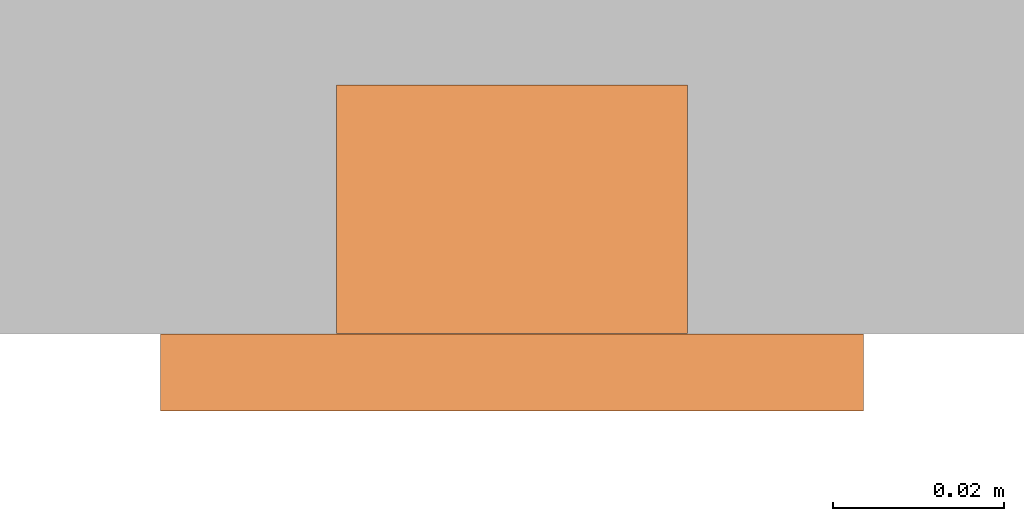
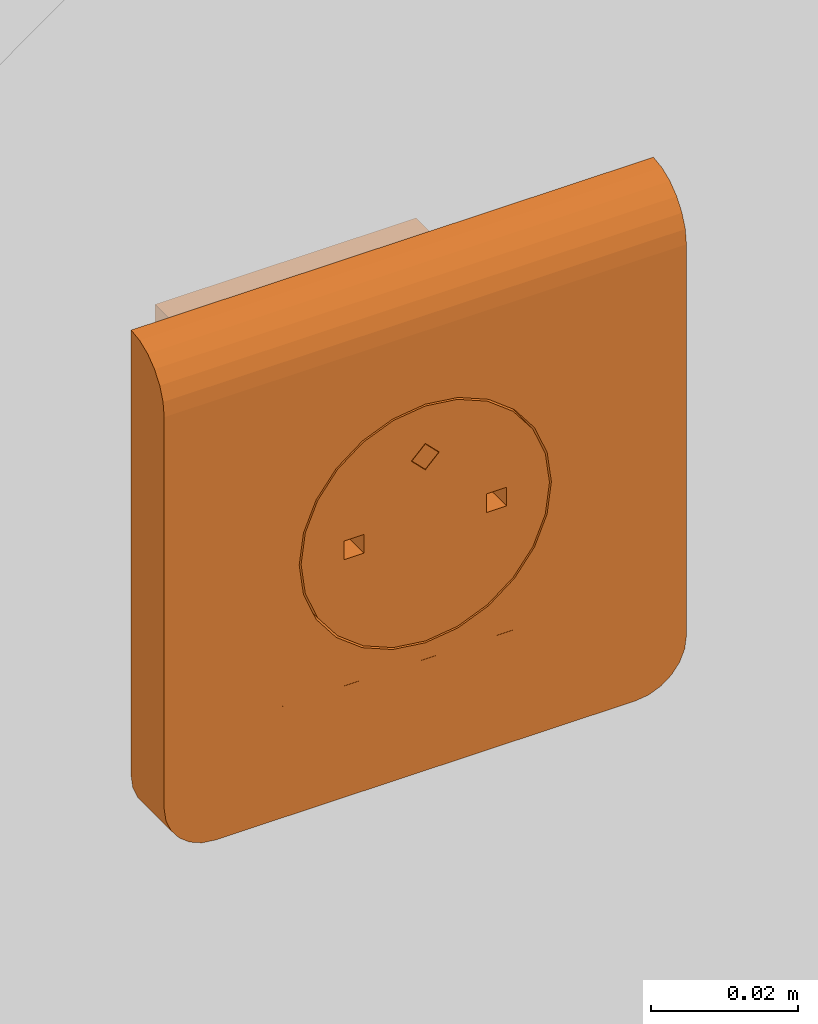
# One storey, part 107 of 197: 1 proxy.
"""IFC2X3 building model written with IfcOpenShell, lengths in metres."""

import ifcopenshell
import ifcopenshell.guid

model = None  # the IFC model being written
_history = None  # IfcOwnerHistory: only IFC2X3 demands one
_inside = {}  # id of a spatial element -> (the spatial element, [elements in it])
_under = {}  # id of a project, library or spatial element -> (it, [spatial elements below it])
_declared = {}  # id of a project -> (the project, [libraries it declares])
_typed = {}  # id of a type object -> (the type object, [elements of that type])
_made_of = {}  # id of a material, layer set ... -> (it, [elements and type objects made of it])


def new_model(schema):
    """Start an empty IFC model of exactly this schema.

    Asked for "IFC4X3", IfcOpenShell would pick the latest addendum, in which some entities
    have other attributes; the version numbers below select the first issue.
    IFC2X3 requires an IfcOwnerHistory on every rooted entity: one is made here for all.
    """
    global model, _history
    if schema == "IFC4X3":
        model = ifcopenshell.file(schema_version=(4, 3, 0, 0))
    else:
        model = ifcopenshell.file(schema=schema)
    _inside.clear()
    _under.clear()
    _declared.clear()
    _typed.clear()
    _made_of.clear()
    _history = None
    if model.schema == "IFC2X3":
        org = make("IfcOrganization", Name="unknown")
        user = make(
            "IfcPersonAndOrganization",
            ThePerson=make("IfcPerson", FamilyName="unknown"),
            TheOrganization=org,
        )
        app = make(
            "IfcApplication",
            ApplicationDeveloper=org,
            Version="unknown",
            ApplicationFullName="unknown",
            ApplicationIdentifier="unknown",
        )
        _history = make(
            "IfcOwnerHistory",
            OwningUser=user,
            OwningApplication=app,
            ChangeAction="ADDED",
            CreationDate=0,
        )
    return model


def make(cls, **values):
    """One entity of the class cls with the attributes given. An attribute that is None is left unset."""
    return model.create_entity(
        cls, **{name: value for name, value in values.items() if value is not None}
    )


def entity(cls, *values):
    """Any entity or typed value of the class cls, its attributes in the order of the schema. None: left unset."""
    e = model.create_entity(cls)
    for i, value in enumerate(values):
        if value is not None:
            e[i] = value
    return e


def rooted(cls, **values):
    """An entity with a GlobalId (a new one), such as an element, a storey or a relation."""
    return make(cls, GlobalId=ifcopenshell.guid.new(), OwnerHistory=_history, **values)


def si_unit(unit_type, name, prefix=None):
    """IfcSIUnit, for example si_unit("LENGTHUNIT", "METRE", prefix="MILLI")."""
    return make("IfcSIUnit", UnitType=unit_type, Prefix=prefix, Name=name)


def converted_unit(unit_type, name, factor, base, dimensions=None, offset=None):
    """IfcConversionBasedUnit, such as the inch: factor (a typed value) times the base unit."""
    return make(
        "IfcConversionBasedUnit"
        if offset is None
        else "IfcConversionBasedUnitWithOffset",
        ConversionOffset=offset,
        Dimensions=None
        if dimensions is None
        else entity("IfcDimensionalExponents", *dimensions),
        UnitType=unit_type,
        Name=name,
        ConversionFactor=make(
            "IfcMeasureWithUnit", ValueComponent=factor, UnitComponent=base
        ),
    )


def assignment(units):
    """IfcUnitAssignment: the units of a project."""
    return None if units is None else make("IfcUnitAssignment", Units=units)


def point(xyz):
    """IfcCartesianPoint."""
    return None if xyz is None else make("IfcCartesianPoint", Coordinates=xyz)


def direction(xyz):
    """IfcDirection."""
    return None if xyz is None else make("IfcDirection", DirectionRatios=xyz)


def frame(location, z_axis=None, x_axis=None):
    """IfcAxis2Placement3D, a coordinate frame: its origin and axes. An axis left out is left unset."""
    return make(
        "IfcAxis2Placement3D",
        Location=point(location),
        Axis=direction(z_axis),
        RefDirection=direction(x_axis),
    )


def origin():
    """The frame at (0, 0, 0) with its axes left unset."""
    return frame((0.0, 0.0, 0.0))


def place(relative_to, where):
    """IfcLocalPlacement: puts the frame where relative to a parent placement (None: the world)."""
    return make(
        "IfcLocalPlacement", PlacementRelTo=relative_to, RelativePlacement=where
    )


def context(
    kind, dimensions, precision=None, world=None, true_north=None, identifier=None
):
    """IfcGeometricRepresentationContext, for example the 3D "Model" context."""
    return make(
        "IfcGeometricRepresentationContext",
        ContextIdentifier=identifier,
        ContextType=kind,
        CoordinateSpaceDimension=dimensions,
        Precision=precision,
        WorldCoordinateSystem=world,
        TrueNorth=true_north,
    )


def subcontext(parent, identifier, kind, view, scale=None):
    """IfcGeometricRepresentationSubContext, for example "Body" below "Model"."""
    return make(
        "IfcGeometricRepresentationSubContext",
        ContextIdentifier=identifier,
        ContextType=kind,
        ParentContext=parent,
        TargetScale=scale,
        TargetView=view,
    )


def project(units=None, contexts=None):
    """IfcProject with its units and contexts."""
    return rooted(
        "IfcProject",
        Name="project",
        RepresentationContexts=contexts,
        UnitsInContext=assignment(units),
    )


def spatial(cls, under=None, at=None, **own):
    """A site, building, storey or space (cls), placed at a placement, below another one or the project."""
    s = rooted(cls, ObjectPlacement=at, **own)
    if under is not None:
        _under.setdefault(under.id(), (under, []))[1].append(s)
    return s


def faces_of(points, faces, orient=None, outer=None):
    """IfcFace entities. A face is a list of loops; a loop is a list of indices into points, from 0.

    orient and outer hold one flag for each loop. By default every Orientation is true, the
    first loop of a face is its IfcFaceOuterBound and the others are IfcFaceBound.
    """
    made = []
    for i, loops in enumerate(faces):
        bounds = []
        for j, loop in enumerate(loops):
            is_outer = j == 0 if outer is None else outer[i][j]
            bounds.append(
                make(
                    "IfcFaceOuterBound" if is_outer else "IfcFaceBound",
                    Bound=make("IfcPolyLoop", Polygon=[points[k] for k in loop]),
                    Orientation=True if orient is None else orient[i][j],
                )
            )
        made.append(make("IfcFace", Bounds=bounds))
    return made


def faceted_brep(points, faces, orient=None, outer=None, voids=None):
    """IfcFacetedBrep: a solid bounded by flat faces; with voids (closed shells), ...WithVoids."""
    shared = [point(p) for p in points]
    hull = make("IfcClosedShell", CfsFaces=faces_of(shared, faces, orient, outer))
    if voids is None:
        return make("IfcFacetedBrep", Outer=hull)
    return make(
        "IfcFacetedBrepWithVoids",
        Outer=hull,
        Voids=[
            make(cls, CfsFaces=faces_of(shared, fs, o, b)) for cls, fs, o, b in voids
        ],
    )


def shape(context_of_items, identifier, shape_type, items):
    """IfcShapeRepresentation: the items that make up one representation, for example the "Body"."""
    return make(
        "IfcShapeRepresentation",
        ContextOfItems=context_of_items,
        RepresentationIdentifier=identifier,
        RepresentationType=shape_type,
        Items=items,
    )


def source(mapping_origin, context_of_items, identifier, shape_type, items):
    """IfcRepresentationMap: a shape defined once, which mapped items show again and again."""
    return make(
        "IfcRepresentationMap",
        MappingOrigin=mapping_origin,
        MappedRepresentation=shape(context_of_items, identifier, shape_type, items),
    )


def transform(
    local_origin,
    x_axis=None,
    y_axis=None,
    z_axis=None,
    scale=None,
    scale2=None,
    scale3=None,
    uniform=True,
):
    """IfcCartesianTransformationOperator3D, or its non-uniform kind. x_axis, y_axis, z_axis: its Axis1, 2, 3."""
    if uniform:
        return make(
            "IfcCartesianTransformationOperator3D",
            Axis1=direction(x_axis),
            Axis2=direction(y_axis),
            LocalOrigin=point(local_origin),
            Scale=scale,
            Axis3=direction(z_axis),
        )
    return make(
        "IfcCartesianTransformationOperator3DnonUniform",
        Axis1=direction(x_axis),
        Axis2=direction(y_axis),
        LocalOrigin=point(local_origin),
        Scale=scale,
        Axis3=direction(z_axis),
        Scale2=scale2,
        Scale3=scale3,
    )


def mapped(mapping_source, mapping_target):
    """IfcMappedItem: shows the shape of a source again, moved by a transform."""
    return make(
        "IfcMappedItem", MappingSource=mapping_source, MappingTarget=mapping_target
    )


def material(Name=None, Category=None):
    """IfcMaterial."""
    return make("IfcMaterial", Name=Name, Category=Category)


def material_list(materials):
    """IfcMaterialList."""
    return make("IfcMaterialList", Materials=materials)


def made_of(thing, what):
    """Note that an element or type object is made of a material, layer set ...; save() writes the relation."""
    if what is not None:
        _made_of.setdefault(what.id(), (what, []))[1].append(thing)
    return thing


def type_object(cls, material=None, **own):
    """A type object (cls), such as IfcWallType, which elements share."""
    return made_of(rooted(cls, **own), material)


def type_shapes(of_type, sources):
    """Give a type object the sources (RepresentationMaps) that its elements show as mapped items."""
    of_type.RepresentationMaps = sources


def element(
    cls,
    number,
    at=None,
    inside=None,
    cuts=None,
    type_object=None,
    material=None,
    context=None,
    identifier="Body",
    shape_type=None,
    held_by="IfcProductDefinitionShape",
    body=None,
    shapes=None,
    **own,
):
    """One element of the class cls, such as IfcWall. Its Tag is "e" and its number.

    at: its placement. inside: the storey or other place that contains it. cuts: it is an
    opening in that element (IfcRelVoidsElement). A single representation is given by context,
    identifier, shape_type and body (its items); several are given by shapes. held_by: the class
    of the entity that holds the representations. save() writes the other relations.
    """
    e = rooted(cls, Tag="e%d" % number, ObjectPlacement=at, **own)
    if body is not None:
        shapes = [shape(context, identifier, shape_type, body)]
    if shapes is not None:
        e.Representation = make(held_by, Representations=shapes)
    if inside is not None:
        _inside.setdefault(inside.id(), (inside, []))[1].append(e)
    if cuts is not None:
        rooted(
            "IfcRelVoidsElement", RelatingBuildingElement=cuts, RelatedOpeningElement=e
        )
    if type_object is not None:
        _typed.setdefault(type_object.id(), (type_object, []))[1].append(e)
    return made_of(e, material)


def aggregate(whole, parts):
    """IfcRelAggregates: a whole, such as a stair, and the parts it consists of."""
    return rooted("IfcRelAggregates", RelatingObject=whole, RelatedObjects=parts)


def save(model, path):
    """Write the relations noted so far, then the file.

    IfcRelAggregates (storeys below a building ...), IfcRelContainedInSpatialStructure (elements
    in a storey), IfcRelDefinesByType, IfcRelAssociatesMaterial and IfcRelDeclares: one each for
    every whole, place, type object, material and project.
    """
    for whole, parts in _under.values():
        aggregate(whole, parts)
    for where, things in _inside.values():
        rooted(
            "IfcRelContainedInSpatialStructure",
            RelatedElements=things,
            RelatingStructure=where,
        )
    for kind, things in _typed.values():
        rooted("IfcRelDefinesByType", RelatedObjects=things, RelatingType=kind)
    for what, things in _made_of.values():
        rooted("IfcRelAssociatesMaterial", RelatedObjects=things, RelatingMaterial=what)
    for by, libraries in _declared.values():
        rooted("IfcRelDeclares", RelatingContext=by, RelatedDefinitions=libraries)
    model.write(path)


model = new_model("IFC2X3")

# Units and contexts
model_context = context("Model", 3, precision=1e-05, world=origin(), true_north=direction((6.123031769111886e-17, 1.0)))
body_context = subcontext(model_context, "Body", "Model", "MODEL_VIEW")
ifc_project = project(units=[si_unit("LENGTHUNIT", "METRE"), converted_unit("PLANEANGLEUNIT", "DEGREE", entity("IfcPlaneAngleMeasure", 0.017453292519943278), si_unit("PLANEANGLEUNIT", "RADIAN"), dimensions=[0, 0, 0, 0, 0, 0, 0]), si_unit("AREAUNIT", "SQUARE_METRE")], contexts=[model_context])

# Site, building, storey
site_placement = place(None, origin())
site = spatial("IfcSite", under=ifc_project, at=site_placement, Name="Default", CompositionType="ELEMENT")
building_placement = place(site_placement, origin())
building = spatial("IfcBuilding", under=site, at=building_placement, CompositionType="ELEMENT")
storey_placement = place(building_placement, origin())
storey = spatial("IfcBuildingStorey", under=building, at=storey_placement, Name="Niveau 0", CompositionType="ELEMENT", Elevation=0.0)

# Proxy
ifc_material_1 = material(Name="BETCE-ENJOLIVEUR PC-BLANC")
ifc_material_2 = material(Name="<Unnamed>")
ifc_material_3 = material(Name="BETCE-PCO-ROUGE")
ifc_material_list = material_list([ifc_material_1, ifc_material_2, ifc_material_3])
building_element_proxy_type = type_object("IfcBuildingElementProxyType", Name="Prise simple encastré:PCO", PredefinedType="NOTDEFINED", material=ifc_material_list)
shared_shape = source(origin(), body_context, "Body", "Brep", [
    faceted_brep([(0.04099999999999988, -0.008999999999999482, -0.032999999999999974), (0.04099999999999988, -0.008999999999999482, 0.031999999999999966), (0.022499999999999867, -0.008999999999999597, -0.022500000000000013), (0.032999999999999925, -0.008999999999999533, -0.04099999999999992), (0.03507055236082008, -0.008999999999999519, -0.04072740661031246), (0.040727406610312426, -0.008999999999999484, -0.03507055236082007), (0.022499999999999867, -0.008999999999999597, 0.022499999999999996), (-0.02250000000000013, -0.008999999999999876, 0.022499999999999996), (-0.04100000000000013, -0.008999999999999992, 0.031999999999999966), (-0.02250000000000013, -0.008999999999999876, -0.022500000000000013), (-0.04100000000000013, -0.008999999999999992, -0.03299999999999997), (-0.033000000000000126, -0.008999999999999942, -0.04099999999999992), (-0.035070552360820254, -0.008999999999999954, -0.040727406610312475), (-0.040727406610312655, -0.008999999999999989, -0.03507055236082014), (-0.03700000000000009, -0.008999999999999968, -0.039928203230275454), (-0.03992820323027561, -0.008999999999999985, -0.036999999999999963), (-0.03865685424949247, -0.008999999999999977, -0.03865685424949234), (0.036999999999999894, -0.008999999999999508, -0.03992820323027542), (0.03992820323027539, -0.00899999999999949, -0.036999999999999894), (0.038656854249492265, -0.008999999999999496, -0.03865685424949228), (-0.04100000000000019, 0.0, -0.03299999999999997), (-0.04100000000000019, 0.0, 0.04100000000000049), (-0.02250000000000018, 0.0, 0.022499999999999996), (-0.02250000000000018, 0.0, -0.022500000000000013), (-0.03300000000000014, 0.0, -0.04099999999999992), (-0.04072740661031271, 0.0, -0.03507055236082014), (0.022499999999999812, 0.0, 0.022499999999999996), (0.040999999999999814, 0.0, 0.04099999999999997), (0.04099999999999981, 0.0, -0.03299999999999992), (0.022499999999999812, 0.0, -0.022500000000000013), (0.03299999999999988, 0.0, -0.04099999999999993), (0.040727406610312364, 0.0, -0.03507055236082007), (0.035070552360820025, 0.0, -0.04072740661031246), (0.039928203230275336, 0.0, -0.036999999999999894), (0.03699999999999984, 0.0, -0.03992820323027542), (0.03865685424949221, 0.0, -0.03865685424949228), (-0.0350705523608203, 0.0, -0.040727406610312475), (-0.03992820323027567, 0.0, -0.036999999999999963), (-0.03700000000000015, 0.0, -0.039928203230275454), (-0.03865685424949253, 0.0, -0.03865685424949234), (0.040999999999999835, -0.002329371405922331, 0.040693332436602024), (0.04099999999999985, -0.004499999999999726, 0.03979422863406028), (0.040999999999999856, -0.006363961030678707, 0.03836396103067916), (0.04099999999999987, -0.007794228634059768, 0.03650000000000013), (0.04099999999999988, -0.008693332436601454, 0.03432937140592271), (-0.04100000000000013, -0.008693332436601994, 0.03432937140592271), (-0.04100000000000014, -0.007794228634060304, 0.036500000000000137), (-0.04100000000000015, -0.0063639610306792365, 0.038363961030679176), (-0.041000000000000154, -0.004500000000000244, 0.039794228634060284), (-0.041000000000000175, -0.002329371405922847, 0.04069333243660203)], [[[0, 1, 2]], [[3, 0, 2]], [[0, 3, 4]], [[5, 0, 4]], [[2, 1, 6]], [[1, 7, 6]], [[7, 1, 8]], [[9, 7, 8]], [[10, 9, 8]], [[11, 9, 10]], [[11, 10, 12]], [[12, 10, 13]], [[14, 12, 13]], [[15, 14, 13]], [[14, 15, 16]], [[9, 11, 3]], [[2, 9, 3]], [[5, 4, 17]], [[5, 17, 18]], [[19, 18, 17]], [[20, 21, 22]], [[23, 20, 22]], [[24, 20, 23]], [[25, 20, 24]], [[21, 26, 22]], [[26, 21, 27]], [[28, 26, 27]], [[29, 26, 28]], [[30, 29, 28]], [[30, 28, 31]], [[30, 31, 32]], [[31, 33, 32]], [[33, 34, 32]], [[34, 33, 35]], [[29, 30, 24]], [[25, 24, 36]], [[23, 29, 24]], [[37, 25, 36]], [[37, 36, 38]], [[39, 37, 38]], [[1, 0, 28, 27, 40, 41, 42, 43, 44]], [[31, 28, 0, 5]], [[33, 31, 5, 18]], [[35, 33, 18, 19]], [[34, 35, 19, 17]], [[32, 34, 17, 4]], [[30, 32, 4, 3]], [[24, 30, 3, 11]], [[36, 24, 11, 12]], [[38, 36, 12, 14]], [[39, 38, 14, 16]], [[37, 39, 16, 15]], [[25, 37, 15, 13]], [[20, 25, 13, 10]], [[21, 20, 10, 8, 45, 46, 47, 48, 49]], [[44, 43, 46, 45]], [[1, 44, 45, 8]], [[43, 42, 47, 46]], [[49, 48, 41, 40]], [[21, 49, 40, 27]], [[42, 41, 48, 47]], [[23, 22, 7, 9]], [[29, 23, 9, 2]], [[26, 29, 2, 6]], [[22, 26, 6, 7]]]),
    faceted_brep([(0.0, -0.008993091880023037, 0.013200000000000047), (-0.0021000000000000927, -0.00899309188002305, 0.011100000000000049), (0.0, -0.008993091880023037, 0.00900000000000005), (0.0020999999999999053, -0.008993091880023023, 0.011100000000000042), (0.00209999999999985, 0.0, 0.011100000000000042), (0.0, 0.0, 0.00900000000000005), (-0.002100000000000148, 0.0, 0.011100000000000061), (0.0, 0.0, 0.013200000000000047)], [[[0, 1, 2, 3]], [[4, 5, 6, 7]], [[3, 4, 7, 0]], [[7, 6, 1, 0]], [[1, 6, 5, 2]], [[5, 4, 3, 2]]]),
    faceted_brep([(-0.020500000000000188, 6.908119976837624e-06, 0.0205), (-0.020500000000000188, 6.908119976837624e-06, -0.020500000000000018), (0.020499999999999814, 6.908119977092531e-06, -0.020500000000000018), (0.020499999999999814, 6.908119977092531e-06, 0.0205), (-0.02050000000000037, 0.02900690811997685, 0.0205), (0.020499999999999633, 0.029006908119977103, 0.0205), (0.020499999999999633, 0.029006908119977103, -0.020500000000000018), (-0.02050000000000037, 0.02900690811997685, -0.020500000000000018)], [[[0, 1, 2, 3]], [[4, 5, 6, 7]], [[1, 0, 4, 7]], [[2, 1, 7, 6]], [[3, 2, 6, 5]], [[0, 3, 5, 4]]]),
    faceted_brep([(-0.02250000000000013, -0.008993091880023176, 0.022499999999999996), (-0.00990000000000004, -0.008993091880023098, 0.017147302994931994), (-0.005124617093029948, -0.008993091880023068, 0.01912533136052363), (-0.014000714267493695, -0.008993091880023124, 0.014000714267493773), (0.0, -0.008993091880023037, 0.01980000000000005), (-0.017147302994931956, -0.008993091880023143, 0.009900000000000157), (-0.01912533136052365, -0.008993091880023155, 0.005124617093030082), (-0.01980000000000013, -0.00899309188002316, 0.0), (-0.02250000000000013, -0.008993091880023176, -0.022500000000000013), (0.022499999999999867, -0.008993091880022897, 0.022499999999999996), (-0.019125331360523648, -0.008993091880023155, -0.0051246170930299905), (-0.01714730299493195, -0.008993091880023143, -0.009900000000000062), (-0.014000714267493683, -0.008993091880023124, -0.014000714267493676), (-0.009900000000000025, -0.008993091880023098, -0.01714730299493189), (-0.005124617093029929, -0.008993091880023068, -0.019125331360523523), (0.0, -0.008993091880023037, -0.019799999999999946), (0.022499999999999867, -0.008993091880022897, -0.022500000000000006), (0.005124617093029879, -0.008993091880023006, -0.01912533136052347), (0.009899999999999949, -0.008993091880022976, -0.01714730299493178), (0.014000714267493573, -0.008993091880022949, -0.014000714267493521), (0.017147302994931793, -0.00899309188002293, -0.00989999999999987), (0.019125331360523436, -0.008993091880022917, -0.0051246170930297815), (0.019799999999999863, -0.008993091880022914, 0.0), (0.005124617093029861, -0.008993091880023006, 0.01912533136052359), (0.009899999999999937, -0.008993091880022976, 0.017147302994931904), (0.014000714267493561, -0.008993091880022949, 0.014000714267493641), (0.017147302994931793, -0.00899309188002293, 0.009899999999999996), (0.019125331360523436, -0.008993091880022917, 0.005124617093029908), (-0.022500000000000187, 0.0, -0.022500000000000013), (-0.009900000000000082, 0.0, -0.01714730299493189), (-0.005124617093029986, 0.0, -0.019125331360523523), (-0.01400071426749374, 0.0, -0.014000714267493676), (0.0, 0.0, -0.019799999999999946), (-0.017147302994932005, 0.0, -0.009900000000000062), (-0.019125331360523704, 0.0, -0.0051246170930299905), (-0.019800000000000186, 0.0, 0.0), (-0.022500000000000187, 0.0, 0.022499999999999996), (0.022499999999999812, 0.0, -0.022500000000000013), (-0.019125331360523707, 0.0, 0.005124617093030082), (-0.017147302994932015, 0.0, 0.009900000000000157), (-0.014000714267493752, 0.0, 0.014000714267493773), (-0.009900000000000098, 0.0, 0.017147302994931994), (-0.005124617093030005, 0.0, 0.01912533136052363), (0.0, 0.0, 0.01980000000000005), (0.022499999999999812, 0.0, 0.022499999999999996), (0.005124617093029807, 0.0, 0.01912533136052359), (0.009899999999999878, 0.0, 0.017147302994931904), (0.014000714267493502, 0.0, 0.014000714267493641), (0.01714730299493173, 0.0, 0.009899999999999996), (0.01912533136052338, 0.0, 0.005124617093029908), (0.01979999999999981, 0.0, 0.0), (0.005124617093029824, 0.0, -0.01912533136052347), (0.009899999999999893, 0.0, -0.01714730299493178), (0.01400071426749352, 0.0, -0.014000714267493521), (0.017147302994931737, 0.0, -0.00989999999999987), (0.01912533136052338, 0.0, -0.0051246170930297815)], [[[0, 1, 2]], [[1, 0, 3]], [[0, 2, 4]], [[5, 3, 0]], [[6, 5, 0]], [[7, 6, 0]], [[0, 8, 7]], [[4, 9, 0]], [[10, 7, 8]], [[11, 10, 8]], [[12, 11, 8]], [[8, 13, 12]], [[13, 8, 14]], [[15, 14, 8]], [[8, 16, 15]], [[17, 15, 16]], [[18, 17, 16]], [[16, 19, 18]], [[19, 16, 20]], [[21, 20, 16]], [[22, 21, 16]], [[22, 16, 9]], [[9, 4, 23]], [[9, 23, 24]], [[24, 25, 9]], [[25, 26, 9]], [[26, 27, 9]], [[9, 27, 22]], [[28, 29, 30]], [[29, 28, 31]], [[28, 30, 32]], [[33, 31, 28]], [[34, 33, 28]], [[35, 34, 28]], [[28, 36, 35]], [[32, 37, 28]], [[38, 35, 36]], [[39, 38, 36]], [[40, 39, 36]], [[36, 41, 40]], [[41, 36, 42]], [[43, 42, 36]], [[36, 44, 43]], [[45, 43, 44]], [[46, 45, 44]], [[44, 47, 46]], [[47, 44, 48]], [[49, 48, 44]], [[50, 49, 44]], [[50, 44, 37]], [[37, 32, 51]], [[37, 51, 52]], [[52, 53, 37]], [[53, 54, 37]], [[54, 55, 37]], [[37, 55, 50]], [[36, 28, 8, 0]], [[44, 36, 0, 9]], [[37, 44, 9, 16]], [[28, 37, 16, 8]], [[50, 22, 27, 49]], [[49, 27, 26, 48]], [[46, 47, 25, 24]], [[25, 47, 48, 26]], [[45, 46, 24, 23]], [[45, 23, 4, 43]], [[43, 4, 2, 42]], [[42, 2, 1, 41]], [[39, 40, 3, 5]], [[3, 40, 41, 1]], [[38, 39, 5, 6]], [[38, 6, 7, 35]], [[35, 7, 10, 34]], [[34, 10, 11, 33]], [[29, 31, 12, 13]], [[12, 31, 33, 11]], [[30, 29, 13, 14]], [[30, 14, 15, 32]], [[32, 15, 17, 51]], [[51, 17, 18, 52]], [[54, 53, 19, 20]], [[19, 53, 52, 18]], [[55, 54, 20, 21]], [[55, 21, 22, 50]]]),
    faceted_brep([(-0.009644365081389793, 0.0, -0.001555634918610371), (-0.009750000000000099, 0.0, -0.01688749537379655), (-0.01378858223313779, 0.0, -0.013788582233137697), (-0.00504697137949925, 0.0, -0.0188355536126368), (-0.016887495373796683, 0.0, -0.009750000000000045), (0.0, 0.0, -0.019499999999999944), (-0.012755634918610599, 0.0, -0.0015556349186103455), (0.009644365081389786, 0.0, -0.0015556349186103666), (0.0, 0.0, 0.00890000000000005), (-0.009644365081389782, 0.0, 0.0015556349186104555), (-0.0022000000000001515, 0.0, 0.011100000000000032), (-0.013788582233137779, 0.0, 0.013788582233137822), (-0.016887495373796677, 0.0, 0.00975000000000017), (-0.01275563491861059, 0.0, 0.0015556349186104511), (-0.019500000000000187, 0.0, 0.0), (-0.018835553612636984, 0.0, 0.0050469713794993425), (-0.018835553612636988, 0.0, -0.005046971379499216), (-0.009750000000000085, 0.0, 0.016887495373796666), (-0.005046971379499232, 0.0, 0.018835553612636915), (0.0, 0.0, 0.013300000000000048), (0.0, 0.0, 0.019500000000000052), (0.005046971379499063, 0.0, 0.018835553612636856), (0.002199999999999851, 0.0, 0.01110000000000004), (0.009749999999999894, 0.0, 0.01688749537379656), (0.013788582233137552, 0.0, 0.01378858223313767), (0.009644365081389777, 0.0, 0.001555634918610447), (0.01688749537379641, 0.0, 0.009749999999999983), (0.012755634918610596, 0.0, 0.001555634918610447), (0.018835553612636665, 0.0, 0.005046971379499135), (0.01949999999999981, 0.0, 0.0), (0.01275563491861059, 0.0, -0.001555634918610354), (0.018835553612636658, 0.0, -0.005046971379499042), (0.0168874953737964, 0.0, -0.009749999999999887), (0.01378858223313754, 0.0, -0.01378858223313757), (0.009749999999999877, 0.0, -0.01688749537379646), (0.005046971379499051, 0.0, -0.018835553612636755), (-0.002200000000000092, -0.008993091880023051, 0.011100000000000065), (-0.005046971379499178, -0.008993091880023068, 0.018835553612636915), (-0.009750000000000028, -0.008993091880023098, 0.016887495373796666), (0.0, -0.008993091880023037, 0.013300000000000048), (-0.013788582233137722, -0.008993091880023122, 0.013788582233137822), (-0.009644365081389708, -0.008993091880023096, 0.0015556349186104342), (0.0, -0.008993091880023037, 0.00890000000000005), (0.0, -0.008993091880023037, 0.019500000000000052), (0.005046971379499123, -0.008993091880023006, 0.018835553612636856), (0.002199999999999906, -0.008993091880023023, 0.011100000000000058), (0.00974999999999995, -0.008993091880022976, 0.01688749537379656), (0.01378858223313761, -0.008993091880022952, 0.01378858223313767), (0.00964436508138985, -0.008993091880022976, 0.001555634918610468), (0.016887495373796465, -0.008993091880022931, 0.009749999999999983), (-0.016887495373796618, -0.008993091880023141, 0.00975000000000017), (-0.012755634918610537, -0.008993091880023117, 0.0015556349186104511), (-0.018835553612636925, -0.008993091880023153, 0.0050469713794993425), (-0.019500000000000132, -0.008993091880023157, 0.0), (-0.012755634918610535, -0.008993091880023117, -0.001555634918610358), (-0.01883555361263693, -0.008993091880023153, -0.005046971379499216), (-0.016887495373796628, -0.008993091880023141, -0.009750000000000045), (-0.009644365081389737, -0.008993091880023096, -0.001555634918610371), (-0.013788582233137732, -0.008993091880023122, -0.013788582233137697), (-0.009750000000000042, -0.008993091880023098, -0.01688749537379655), (-0.005046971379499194, -0.008993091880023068, -0.0188355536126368), (0.0, -0.008993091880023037, -0.019499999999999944), (0.009644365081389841, -0.008993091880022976, -0.001555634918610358), (0.005046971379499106, -0.008993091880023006, -0.018835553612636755), (0.009749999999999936, -0.008993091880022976, -0.01688749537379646), (0.013788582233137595, -0.008993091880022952, -0.01378858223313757), (0.016887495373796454, -0.008993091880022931, -0.009749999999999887), (0.012755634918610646, -0.008993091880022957, -0.001555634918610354), (0.01883555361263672, -0.008993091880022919, -0.005046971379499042), (0.019499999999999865, -0.008993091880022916, 0.0), (0.012755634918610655, -0.008993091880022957, 0.0015556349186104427), (0.01883555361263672, -0.008993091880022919, 0.005046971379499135)], [[[0, 1, 2]], [[0, 3, 1]], [[2, 4, 0]], [[3, 0, 5]], [[0, 4, 6]], [[5, 0, 7]], [[8, 7, 0]], [[8, 0, 9]], [[8, 9, 10]], [[10, 9, 11]], [[12, 11, 9]], [[12, 9, 13]], [[6, 14, 13]], [[15, 12, 13]], [[15, 13, 14]], [[16, 14, 6]], [[11, 17, 10]], [[18, 10, 17]], [[10, 18, 19]], [[19, 18, 20]], [[21, 19, 20]], [[19, 21, 22]], [[23, 22, 21]], [[22, 23, 24]], [[22, 24, 25]], [[25, 24, 26]], [[27, 25, 26]], [[26, 28, 27]], [[27, 28, 29]], [[29, 30, 27]], [[31, 30, 29]], [[30, 31, 32]], [[7, 30, 32]], [[7, 32, 33]], [[7, 33, 34]], [[7, 34, 35]], [[35, 5, 7]], [[8, 25, 7]], [[25, 8, 22]], [[6, 4, 16]], [[36, 37, 38]], [[36, 39, 37]], [[38, 40, 36]], [[41, 36, 40]], [[42, 36, 41]], [[37, 39, 43]], [[43, 39, 44]], [[39, 45, 44]], [[45, 46, 44]], [[45, 47, 46]], [[48, 45, 42]], [[48, 47, 45]], [[48, 49, 47]], [[50, 41, 40]], [[50, 51, 41]], [[50, 52, 51]], [[52, 53, 51]], [[54, 51, 53]], [[54, 53, 55]], [[56, 54, 55]], [[54, 56, 57]], [[58, 57, 56]], [[57, 58, 59]], [[59, 60, 57]], [[61, 57, 60]], [[62, 57, 61]], [[61, 63, 62]], [[63, 64, 62]], [[62, 64, 65]], [[65, 66, 62]], [[67, 62, 66]], [[68, 67, 66]], [[68, 69, 67]], [[67, 69, 70]], [[71, 70, 69]], [[49, 70, 71]], [[70, 49, 48]], [[48, 42, 62]], [[42, 57, 62]], [[42, 41, 57]], [[68, 31, 29, 69]], [[66, 32, 31, 68]], [[33, 65, 64, 34]], [[66, 65, 33, 32]], [[34, 64, 63, 35]], [[35, 63, 61, 5]], [[59, 1, 3, 60]], [[58, 2, 1, 59]], [[4, 56, 55, 16]], [[58, 56, 4, 2]], [[16, 55, 53, 14]], [[3, 5, 61, 60]], [[52, 15, 14, 53]], [[50, 12, 15, 52]], [[11, 40, 38, 17]], [[50, 40, 11, 12]], [[17, 38, 37, 18]], [[18, 37, 43, 20]], [[46, 23, 21, 44]], [[47, 24, 23, 46]], [[26, 49, 71, 28]], [[47, 49, 26, 24]], [[28, 71, 69, 29]], [[21, 20, 43, 44]], [[39, 19, 22, 45]], [[36, 10, 19, 39]], [[42, 8, 10, 36]], [[45, 22, 8, 42]], [[57, 0, 6, 54]], [[67, 30, 7, 62]], [[41, 9, 0, 57]], [[51, 13, 9, 41]], [[48, 25, 27, 70]], [[54, 6, 13, 51]], [[70, 27, 30, 67]], [[62, 7, 25, 48]]]),
])
type_shapes(building_element_proxy_type, [shared_shape])
proxy_placement = place(storey_placement, frame((-411.87044850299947, 97.32254659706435, 0.49999999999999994)))
element("IfcBuildingElementProxy", 1, at=proxy_placement, inside=storey, type_object=building_element_proxy_type, material=ifc_material_list, Name="Prise simple encastré:PCO", ObjectType="Prise simple encastré:PCO", context=body_context, shape_type="MappedRepresentation", body=[
    mapped(shared_shape, transform((0.0, 0.0, 0.0), scale=1.0)),
])

save(model, "model.ifc")
